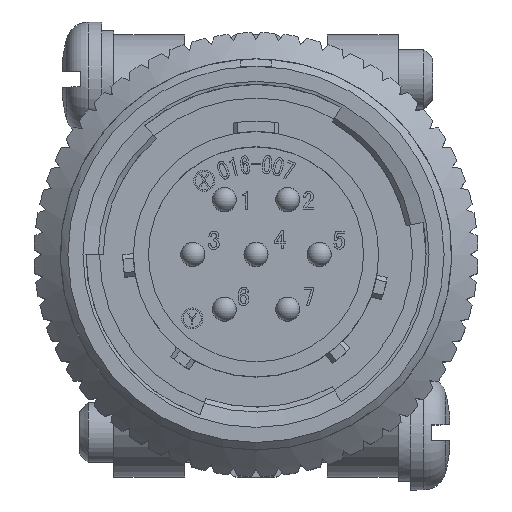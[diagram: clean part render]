
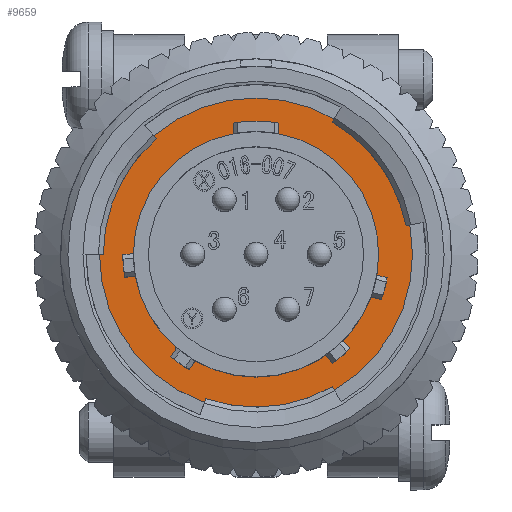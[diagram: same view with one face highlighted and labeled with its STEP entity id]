
A CAD part, top view. The second image highlights one B-rep face of the part: STEP entity #9659.
In plain terms, the highlighted planar face has unit normal (0, 0, 1).
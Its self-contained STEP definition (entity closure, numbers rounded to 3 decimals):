
#591 = DIRECTION ( 'NONE',  ( 1., 0., 0. ) ) ;
#1144 = DIRECTION ( 'NONE',  ( 1., 0., 0. ) ) ;
#2183 = CIRCLE ( 'NONE', #12537, 10.4 ) ;
#3878 = CARTESIAN_POINT ( 'NONE',  ( 0., 0., -10.2 ) ) ;
#4160 = CARTESIAN_POINT ( 'NONE',  ( 0., 0., -10.2 ) ) ;
#5264 = ORIENTED_EDGE ( 'NONE', *, *, #37972, .T. ) ;
#6405 = CIRCLE ( 'NONE', #15199, 8.15 ) ;
#9107 = DIRECTION ( 'NONE',  ( 0., 0., 1. ) ) ;
#9659 = ADVANCED_FACE ( 'NONE', ( #32444, #20392 ), #11922, .T. ) ;
#11922 = PLANE ( 'NONE',  #18121 ) ;
#12537 = AXIS2_PLACEMENT_3D ( 'NONE', #27615, #9107, #30460 ) ;
#12869 = EDGE_LOOP ( 'NONE', ( #5264 ) ) ;
#13620 = CARTESIAN_POINT ( 'NONE',  ( 8.15, 0., -10.2 ) ) ;
#15199 = AXIS2_PLACEMENT_3D ( 'NONE', #4160, #29454, #1144 ) ;
#16116 = DIRECTION ( 'NONE',  ( 0., 0., 1. ) ) ;
#16481 = EDGE_LOOP ( 'NONE', ( #28337 ) ) ;
#18121 = AXIS2_PLACEMENT_3D ( 'NONE', #3878, #16116, #591 ) ;
#20392 = FACE_OUTER_BOUND ( 'NONE', #12869, .T. ) ;
#27615 = CARTESIAN_POINT ( 'NONE',  ( 0., 0., -10.2 ) ) ;
#28337 = ORIENTED_EDGE ( 'NONE', *, *, #31432, .T. ) ;
#29454 = DIRECTION ( 'NONE',  ( 0., 0., -1. ) ) ;
#29797 = CARTESIAN_POINT ( 'NONE',  ( 10.4, 0., -10.2 ) ) ;
#30460 = DIRECTION ( 'NONE',  ( 1., 0., 0. ) ) ;
#31432 = EDGE_CURVE ( 'NONE', #36644, #36644, #6405, .T. ) ;
#32444 = FACE_BOUND ( 'NONE', #16481, .T. ) ;
#34721 = VERTEX_POINT ( 'NONE', #29797 ) ;
#36644 = VERTEX_POINT ( 'NONE', #13620 ) ;
#37972 = EDGE_CURVE ( 'NONE', #34721, #34721, #2183, .T. ) ;
